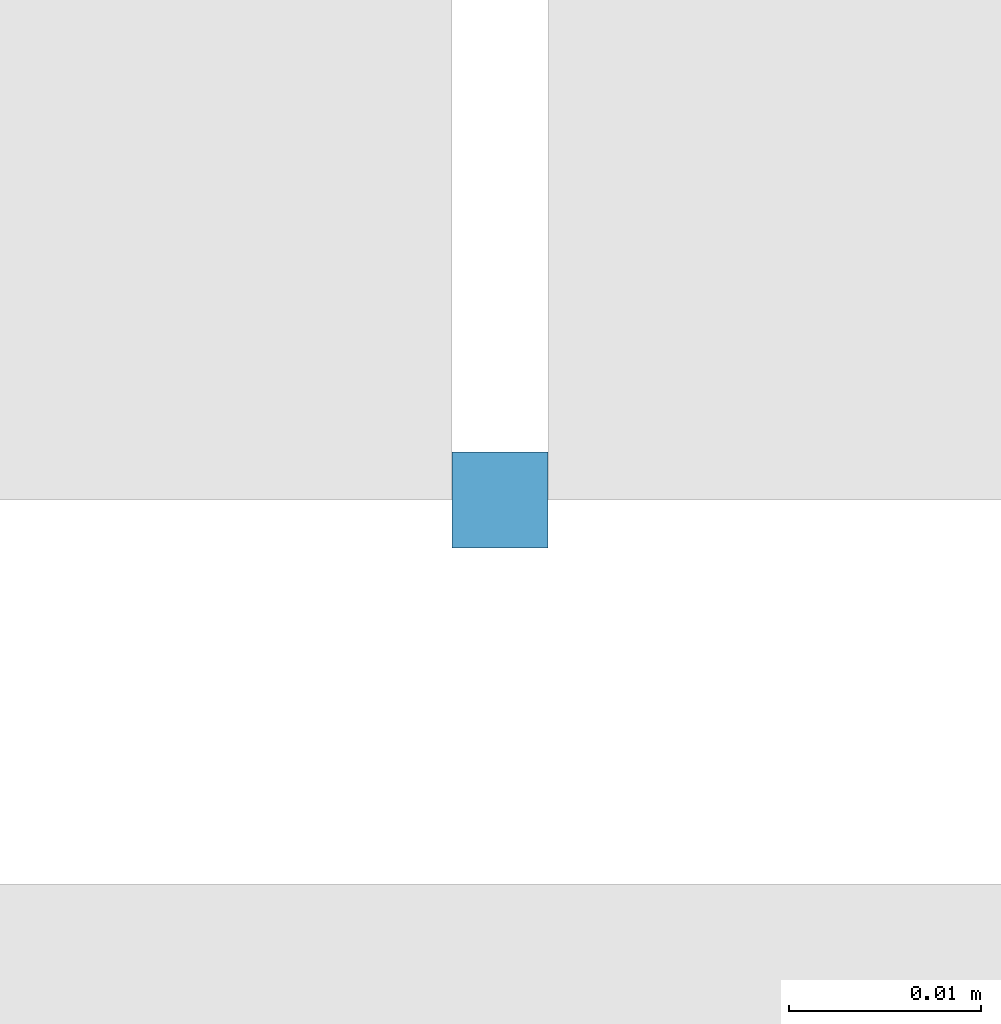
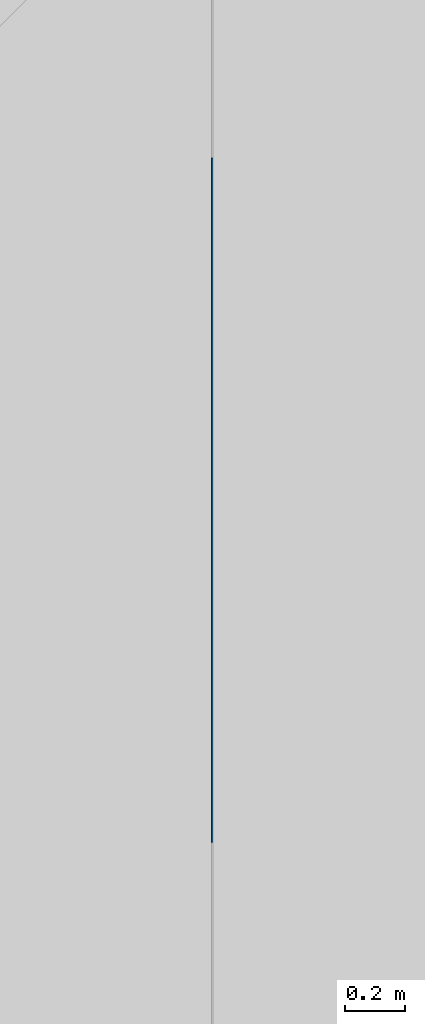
# One storey, part 75 of 302: 1 member, 1 element without a shape of its own.
"""IFC2X3 building model written with IfcOpenShell, lengths in metres."""

from ifc_helpers import new_model, entity, si_unit, converted_unit, derived_unit, direction, frame, frame_2d, origin, place, context, subcontext, project, spatial, rectangle, extrude, source, transform, mapped, material, type_object, type_shapes, element, aggregate, save


model = new_model("IFC2X3")

# Units and contexts
model_context = context("Model", 3, precision=1e-05, world=origin(), true_north=direction((6.12303176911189e-17, 1.0)))
body_context = subcontext(model_context, "Body", "Model", "MODEL_VIEW")
ifc_project = project(units=[si_unit("LENGTHUNIT", "METRE"), si_unit("AREAUNIT", "SQUARE_METRE"), si_unit("VOLUMEUNIT", "CUBIC_METRE"), converted_unit("PLANEANGLEUNIT", "DEGREE", entity("IfcRatioMeasure", 0.0174532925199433), si_unit("PLANEANGLEUNIT", "RADIAN"), dimensions=[0, 0, 0, 0, 0, 0, 0]), si_unit("MASSUNIT", "GRAM", prefix="KILO"), derived_unit("MASSDENSITYUNIT", [(si_unit("MASSUNIT", "GRAM", prefix="KILO"), 1), (si_unit("LENGTHUNIT", "METRE"), -3)]), derived_unit("MOMENTOFINERTIAUNIT", [(si_unit("LENGTHUNIT", "METRE"), 4)]), si_unit("TIMEUNIT", "SECOND"), si_unit("FREQUENCYUNIT", "HERTZ"), si_unit("THERMODYNAMICTEMPERATUREUNIT", "DEGREE_CELSIUS"), derived_unit("THERMALTRANSMITTANCEUNIT", [(si_unit("MASSUNIT", "GRAM", prefix="KILO"), 1), (si_unit("THERMODYNAMICTEMPERATUREUNIT", "KELVIN"), -1), (si_unit("TIMEUNIT", "SECOND"), -3)]), derived_unit("VOLUMETRICFLOWRATEUNIT", [(si_unit("LENGTHUNIT", "METRE"), 3), (si_unit("TIMEUNIT", "SECOND"), -1)]), si_unit("ELECTRICCURRENTUNIT", "AMPERE"), si_unit("ELECTRICVOLTAGEUNIT", "VOLT"), si_unit("POWERUNIT", "WATT"), si_unit("FORCEUNIT", "NEWTON", prefix="KILO"), si_unit("ILLUMINANCEUNIT", "LUX"), si_unit("LUMINOUSFLUXUNIT", "LUMEN"), si_unit("LUMINOUSINTENSITYUNIT", "CANDELA"), derived_unit("USERDEFINED", [(si_unit("MASSUNIT", "GRAM", prefix="KILO"), -1), (si_unit("LENGTHUNIT", "METRE"), -2), (si_unit("TIMEUNIT", "SECOND"), 3), (si_unit("LUMINOUSFLUXUNIT", "LUMEN"), 1)]), derived_unit("LINEARVELOCITYUNIT", [(si_unit("LENGTHUNIT", "METRE"), 1), (si_unit("TIMEUNIT", "SECOND"), -1)]), si_unit("PRESSUREUNIT", "PASCAL"), derived_unit("USERDEFINED", [(si_unit("LENGTHUNIT", "METRE"), -2), (si_unit("MASSUNIT", "GRAM", prefix="KILO"), 1), (si_unit("TIMEUNIT", "SECOND"), -2)]), derived_unit("LINEARFORCEUNIT", [(si_unit("MASSUNIT", "GRAM", prefix="KILO"), 1), (si_unit("LENGTHUNIT", "METRE"), 1), (si_unit("TIMEUNIT", "SECOND"), -2), (si_unit("LENGTHUNIT", "METRE"), -1)]), derived_unit("PLANARFORCEUNIT", [(si_unit("MASSUNIT", "GRAM", prefix="KILO"), 1), (si_unit("LENGTHUNIT", "METRE"), 1), (si_unit("TIMEUNIT", "SECOND"), -2), (si_unit("LENGTHUNIT", "METRE"), -2)])], contexts=[model_context])

# Site, building, storey
site_placement = place(None, origin())
site = spatial("IfcSite", under=ifc_project, at=site_placement, Name="Default", CompositionType="ELEMENT")
building_placement = place(site_placement, origin())
building = spatial("IfcBuilding", under=site, at=building_placement, CompositionType="ELEMENT")
storey_placement = place(building_placement, frame((0.0, 0.0, -1.3)))
storey = spatial("IfcBuildingStorey", under=building, at=storey_placement, Name="00_EG", CompositionType="ELEMENT", Elevation=-1.3)

# Curtain wall, member
curtain_wall_type = type_object("IfcCurtainWallType", Name="Fassade:Curtain Wall 1", PredefinedType="NOTDEFINED")
curtain_wall_placement = place(storey_placement, frame((0.0, 0.0, 1.3)))
curtain_wall = element("IfcCurtainWall", 1, at=curtain_wall_placement, inside=storey, type_object=curtain_wall_type, Name="Fassade:Curtain Wall 1", ObjectType="Fassade:Curtain Wall 1")
ifc_material = material(Name="Aluminium")
member_type = type_object("IfcMemberType", Name="Rectangular Mullion:Paneele Spalt", PredefinedType="MULLION", material=ifc_material)
shared_shape = source(origin(), body_context, "Body", "SweptSolid", [
    extrude(rectangle(XDim=0.005, YDim=0.005, at=frame_2d((0.0, -6.50521303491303e-19), x_axis=(1.0, 0.0))), frame((0.0, 0.0, -2.77), z_axis=(0.0, 0.0, 1.0), x_axis=(0.0, -1.0, 0.0)), (0.0, 0.0, 1.0), 2.77),
])
type_shapes(member_type, [shared_shape])
member_placement = place(storey_placement, frame((-224.610111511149, 45.578088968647, 5.73), z_axis=(0.0, 0.0, -1.0), x_axis=(-1.0, 0.0, 0.0)))
member = element("IfcMember", 2, at=member_placement, type_object=member_type, material=ifc_material, Name="Rectangular Mullion:Paneele Spalt", ObjectType="Rectangular Mullion:Paneele Spalt", context=body_context, shape_type="MappedRepresentation", body=[
    mapped(shared_shape, transform((0.0, 0.0, 0.0), scale=1.0)),
])
aggregate(curtain_wall, [member])

save(model, "model.ifc")
